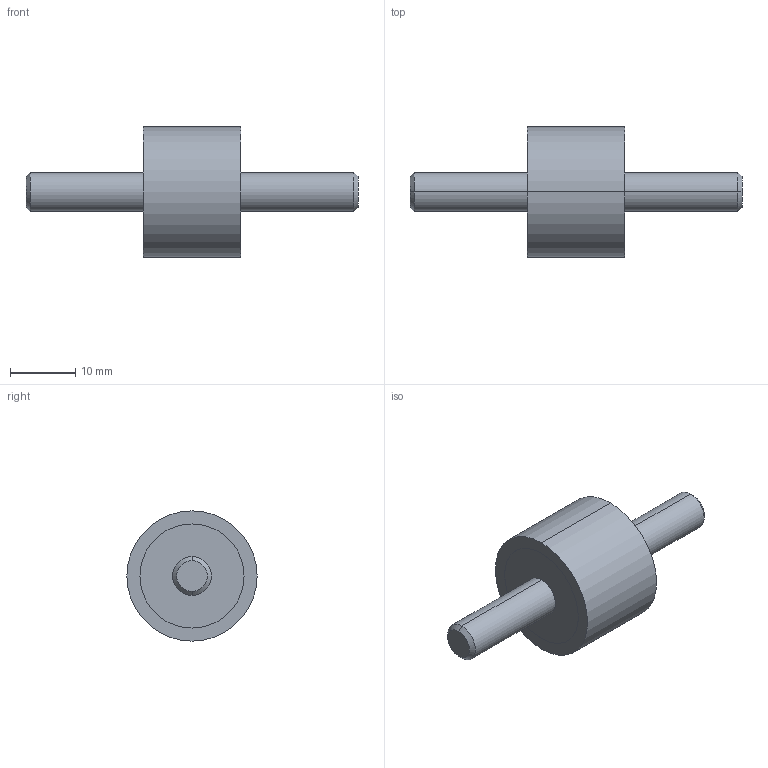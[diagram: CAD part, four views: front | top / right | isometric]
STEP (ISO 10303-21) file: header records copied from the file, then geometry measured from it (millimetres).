
FILE_DESCRIPTION (( 'STEP AP214' ), '1' );
FILE_NAME ('351-20-15-M6-SS-55.step', '2025-07-23T09:52:45', ( '' ), ( '' ), 'SwSTEP 2.0', 'SolidWorks 2022', '' );
FILE_SCHEMA (( 'AUTOMOTIVE_DESIGN' ));
Length unit declared in the file: millimetre
Products named in the file (1): 351-20-15-M6-SS-55
Bounding box: 51 x 20 x 20 mm (x, y, z)
Volume: 5719.4 mm3; surface area: 2235.3 mm2
Topology: 1 solids, 1 shells, 20 faces, 38 edges, 24 vertices
Faces by surface type: cylinder 10, plane 6, cone 4
Entity records: 636 total; most frequent: DIRECTION 104, CARTESIAN_POINT 83, ORIENTED_EDGE 76, AXIS2_PLACEMENT_3D 45, EDGE_CURVE 38, EDGE_LOOP 24, VERTEX_POINT 24, CIRCLE 24
